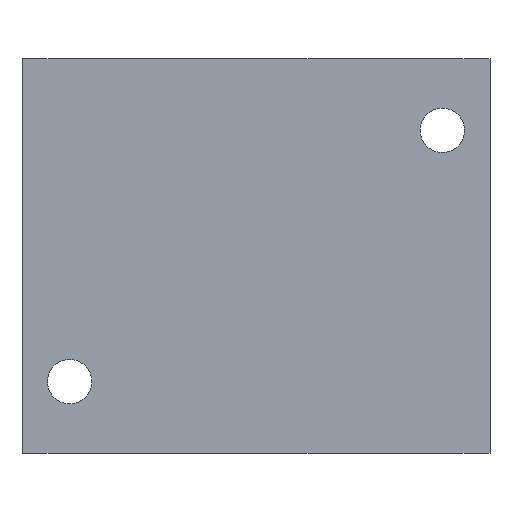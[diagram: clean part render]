
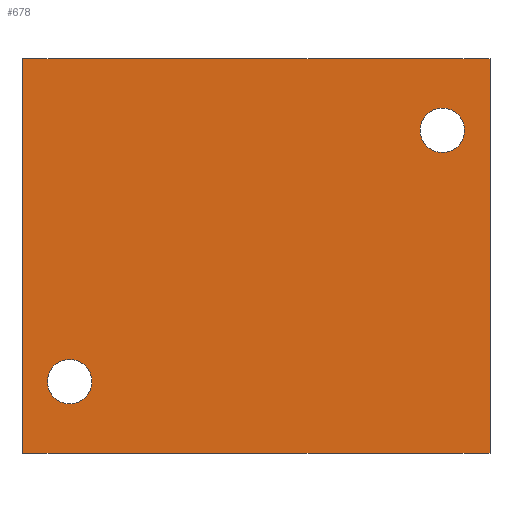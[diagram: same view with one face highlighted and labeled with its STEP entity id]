
A CAD part, front view. The second image highlights one B-rep face of the part: STEP entity #678.
In plain terms, the highlighted planar face has unit normal (0, -1, 0).
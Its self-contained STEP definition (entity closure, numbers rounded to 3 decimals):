
#26 = CARTESIAN_POINT ( 'NONE',  ( 54., -38.5, 45.5 ) ) ;
#41 = VERTEX_POINT ( 'NONE', #666 ) ;
#103 = EDGE_CURVE ( 'NONE', #1456, #575, #873, .T. ) ;
#131 = DIRECTION ( 'NONE',  ( 0., 0., 1. ) ) ;
#146 = DIRECTION ( 'NONE',  ( 0., -1., 0. ) ) ;
#150 = EDGE_LOOP ( 'NONE', ( #197, #997 ) ) ;
#153 = EDGE_CURVE ( 'NONE', #575, #1456, #1461, .T. ) ;
#155 = DIRECTION ( 'NONE',  ( 1., 0., 0. ) ) ;
#196 = CARTESIAN_POINT ( 'NONE',  ( -54., -38.5, -45.5 ) ) ;
#197 = ORIENTED_EDGE ( 'NONE', *, *, #1428, .F. ) ;
#201 = AXIS2_PLACEMENT_3D ( 'NONE', #436, #933, #662 ) ;
#230 = CARTESIAN_POINT ( 'NONE',  ( -54., -38.5, -45.5 ) ) ;
#258 = VERTEX_POINT ( 'NONE', #1365 ) ;
#296 = CARTESIAN_POINT ( 'NONE',  ( -54., -38.5, 45.5 ) ) ;
#317 = ORIENTED_EDGE ( 'NONE', *, *, #366, .F. ) ;
#322 = LINE ( 'NONE', #230, #637 ) ;
#360 = DIRECTION ( 'NONE',  ( 0., 0., -1. ) ) ;
#366 = EDGE_CURVE ( 'NONE', #478, #41, #663, .T. ) ;
#367 = CARTESIAN_POINT ( 'NONE',  ( -43., -38.5, -29. ) ) ;
#422 = CIRCLE ( 'NONE', #1570, 5.15 ) ;
#436 = CARTESIAN_POINT ( 'NONE',  ( 43., -38.5, 29. ) ) ;
#478 = VERTEX_POINT ( 'NONE', #924 ) ;
#487 = AXIS2_PLACEMENT_3D ( 'NONE', #1368, #1364, #131 ) ;
#492 = CARTESIAN_POINT ( 'NONE',  ( -43., -38.5, -23.85 ) ) ;
#543 = EDGE_CURVE ( 'NONE', #1020, #258, #574, .T. ) ;
#574 = CIRCLE ( 'NONE', #201, 5.15 ) ;
#575 = VERTEX_POINT ( 'NONE', #1300 ) ;
#621 = VECTOR ( 'NONE', #1249, 1000. ) ;
#636 = CARTESIAN_POINT ( 'NONE',  ( 43., -38.5, 29. ) ) ;
#637 = VECTOR ( 'NONE', #957, 1000. ) ;
#662 = DIRECTION ( 'NONE',  ( 0., 0., -1. ) ) ;
#663 = LINE ( 'NONE', #26, #621 ) ;
#664 = AXIS2_PLACEMENT_3D ( 'NONE', #1068, #825, #1415 ) ;
#666 = CARTESIAN_POINT ( 'NONE',  ( 54., -38.5, -45.5 ) ) ;
#669 = VERTEX_POINT ( 'NONE', #725 ) ;
#678 = ADVANCED_FACE ( 'NONE', ( #874, #1217, #866 ), #1235, .F. ) ;
#722 = ORIENTED_EDGE ( 'NONE', *, *, #103, .F. ) ;
#725 = CARTESIAN_POINT ( 'NONE',  ( -54., -38.5, 45.5 ) ) ;
#738 = ORIENTED_EDGE ( 'NONE', *, *, #153, .F. ) ;
#825 = DIRECTION ( 'NONE',  ( 0., -1., 0. ) ) ;
#836 = ORIENTED_EDGE ( 'NONE', *, *, #1527, .F. ) ;
#843 = EDGE_LOOP ( 'NONE', ( #738, #722 ) ) ;
#866 = FACE_OUTER_BOUND ( 'NONE', #1272, .T. ) ;
#873 = CIRCLE ( 'NONE', #664, 5.15 ) ;
#874 = FACE_BOUND ( 'NONE', #150, .T. ) ;
#916 = EDGE_CURVE ( 'NONE', #669, #1076, #1170, .T. ) ;
#924 = CARTESIAN_POINT ( 'NONE',  ( 54., -38.5, 45.5 ) ) ;
#933 = DIRECTION ( 'NONE',  ( 0., -1., 0. ) ) ;
#957 = DIRECTION ( 'NONE',  ( 1., 0., 0. ) ) ;
#997 = ORIENTED_EDGE ( 'NONE', *, *, #543, .F. ) ;
#1002 = VECTOR ( 'NONE', #1261, 1000. ) ;
#1014 = ORIENTED_EDGE ( 'NONE', *, *, #1030, .T. ) ;
#1020 = VERTEX_POINT ( 'NONE', #1425 ) ;
#1030 = EDGE_CURVE ( 'NONE', #1076, #41, #322, .T. ) ;
#1068 = CARTESIAN_POINT ( 'NONE',  ( -43., -38.5, -29. ) ) ;
#1076 = VERTEX_POINT ( 'NONE', #196 ) ;
#1126 = DIRECTION ( 'NONE',  ( 0., 0., -1. ) ) ;
#1170 = LINE ( 'NONE', #296, #1002 ) ;
#1201 = VECTOR ( 'NONE', #155, 1000. ) ;
#1217 = FACE_BOUND ( 'NONE', #843, .T. ) ;
#1235 = PLANE ( 'NONE',  #487 ) ;
#1249 = DIRECTION ( 'NONE',  ( 0., 0., -1. ) ) ;
#1260 = CARTESIAN_POINT ( 'NONE',  ( -54., -38.5, 45.5 ) ) ;
#1261 = DIRECTION ( 'NONE',  ( 0., 0., -1. ) ) ;
#1272 = EDGE_LOOP ( 'NONE', ( #1014, #317, #836, #1281 ) ) ;
#1281 = ORIENTED_EDGE ( 'NONE', *, *, #916, .T. ) ;
#1300 = CARTESIAN_POINT ( 'NONE',  ( -43., -38.5, -34.15 ) ) ;
#1356 = DIRECTION ( 'NONE',  ( 0., -1., 0. ) ) ;
#1364 = DIRECTION ( 'NONE',  ( 0., 1., 0. ) ) ;
#1365 = CARTESIAN_POINT ( 'NONE',  ( 43., -38.5, 23.85 ) ) ;
#1368 = CARTESIAN_POINT ( 'NONE',  ( -54., -38.5, 45.5 ) ) ;
#1415 = DIRECTION ( 'NONE',  ( 0., 0., -1. ) ) ;
#1417 = LINE ( 'NONE', #1260, #1201 ) ;
#1425 = CARTESIAN_POINT ( 'NONE',  ( 43., -38.5, 34.15 ) ) ;
#1428 = EDGE_CURVE ( 'NONE', #258, #1020, #422, .T. ) ;
#1456 = VERTEX_POINT ( 'NONE', #492 ) ;
#1461 = CIRCLE ( 'NONE', #1508, 5.15 ) ;
#1508 = AXIS2_PLACEMENT_3D ( 'NONE', #367, #1356, #360 ) ;
#1527 = EDGE_CURVE ( 'NONE', #669, #478, #1417, .T. ) ;
#1570 = AXIS2_PLACEMENT_3D ( 'NONE', #636, #146, #1126 ) ;
